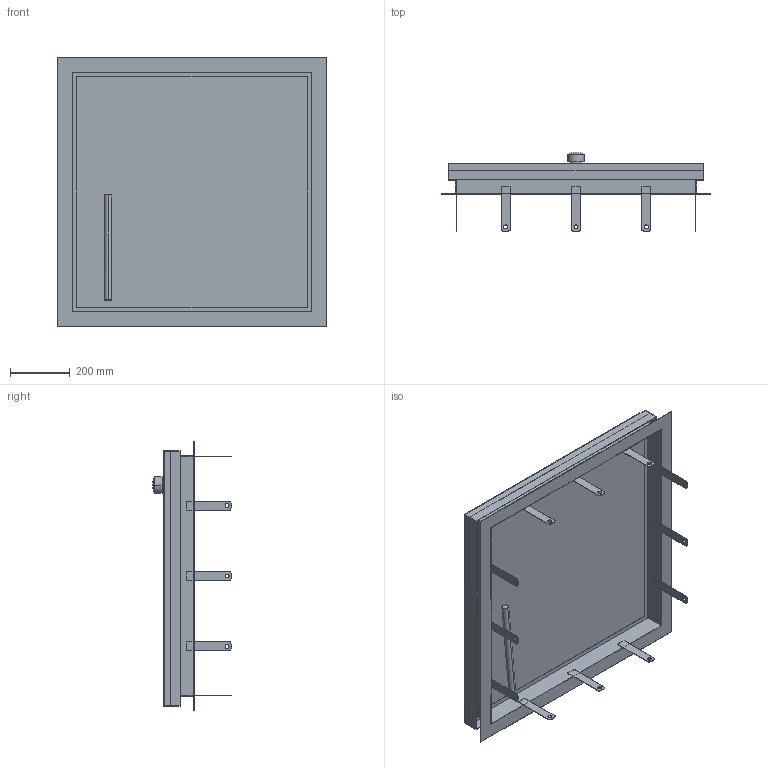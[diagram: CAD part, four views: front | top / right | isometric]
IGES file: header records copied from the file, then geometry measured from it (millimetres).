
Start section:  PTC IGES file: 51351467.igs
Global section: file name: 51351467.igs; native system: Creo Parametric by Parametric Technology Corporation; preprocessor: 2017170; author: wj; organization: Unknown; date: 20190604.081847; units: millimetre
Bounding box: 900 x 264 x 900 mm (x, y, z)
Surface area: 4226757.7 mm2 (no closed solid volume)
Topology: 0 solids, 0 shells, 144 faces, 738 edges, 736 vertices
Faces by surface type: bspline 100, revolution 44
